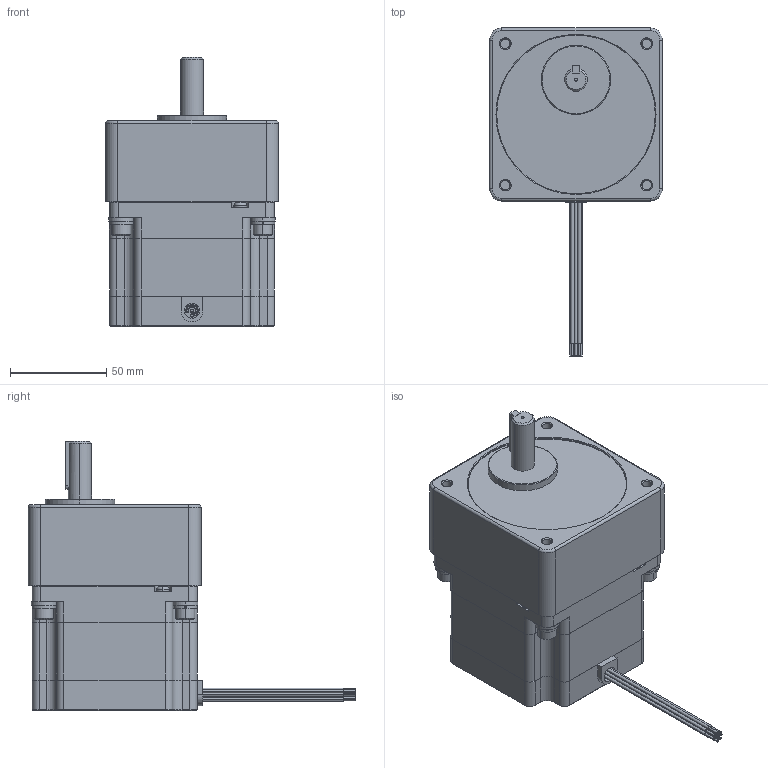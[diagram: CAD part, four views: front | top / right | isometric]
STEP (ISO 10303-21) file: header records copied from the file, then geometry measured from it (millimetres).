
FILE_DESCRIPTION (( 'STEP AP214' ), '1' );
FILE_NAME ('34YSG008S-LW8-R12.5.STEP', '2010-06-18T16:31:18', ( 'Tim Raines' ), ( 'Anaheim Automation' ), 'SwSTEP 2.0', 'SolidWorks 2010', '' );
FILE_SCHEMA (( 'AUTOMOTIVE_DESIGN' ));
Length unit declared in the file: millimetre
Products named in the file (6): 34YSG Motor_34YSG008S-LW8; Lock Washer Spring Regular_AI_Regular LW 0.25; 34SG Series_34SG1; Flat Washer Narrow_AM_B18.22M - Plain washer, 6 mm, narrow; Socket Head Cap Screw_AM_B18.3.1M - 6 x 1.0 x 20 Hex SHCS -- 20NHX; 34YSG008S-LW8-R12.5
Assembly tree (14 placements, depth 2):
  34YSG008S-LW8-R12.5
    Lock Washer Spring Regular_AI_Regular LW 0.25  x4
    Flat Washer Narrow_AM_B18.22M - Plain washer, 6 mm, narrow  x4
    Socket Head Cap Screw_AM_B18.3.1M - 6 x 1.0 x 20 Hex SHCS -- 20NHX  x4
    34SG Series_34SG1
    34YSG Motor_34YSG008S-LW8
Bounding box: 89.92 x 170.43 x 140.03 mm (x, y, z)
Volume: 767520.6 mm3; surface area: 84657.8 mm2
Topology: 14 solids, 14 shells, 575 faces, 1363 edges, 848 vertices
Faces by surface type: plane 272, cylinder 190, cone 93, torus 20
Entity records: 18465 total; most frequent: CARTESIAN_POINT 2581, DIRECTION 2415, ORIENTED_EDGE 2214, EDGE_CURVE 1107, AXIS2_PLACEMENT_3D 895, VERTEX_POINT 701, VECTOR 625, LINE 625
